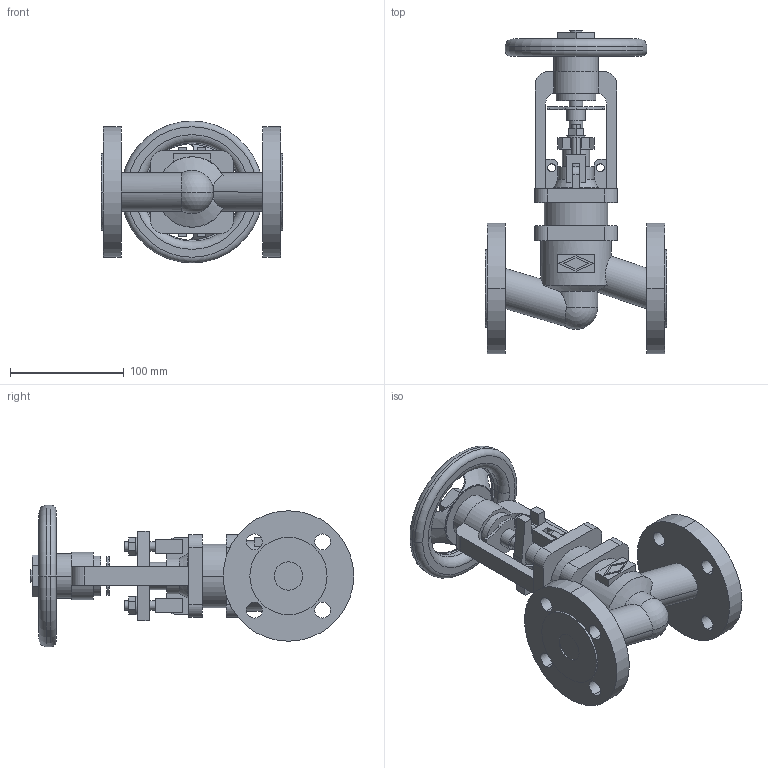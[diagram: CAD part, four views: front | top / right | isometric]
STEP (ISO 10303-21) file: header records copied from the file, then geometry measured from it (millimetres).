
FILE_DESCRIPTION(('OneSpaceDesigner STEP Export'),'2;1');
FILE_NAME('c000003737.stp','2009-06-15T13:03:39',(''),(''),'OneSpace Designer STEP processor for AP214 (Solid Model)','OneSpace Modeling 15.50B 03-Nov-2007 (C) CoCreate Software GmbH','');
FILE_SCHEMA(('AUTOMOTIVE_DESIGN { 1 0 10303 214 1 1 1 1 }'));
Length unit declared in the file: millimetre
Products named in the file (1): 1
Bounding box: 160 x 285 x 125 mm (x, y, z)
Volume: 997900.8 mm3; surface area: 166937.4 mm2
Topology: 1 solids, 1 shells, 283 faces, 756 edges, 497 vertices
Faces by surface type: plane 140, cylinder 115, torus 14, cone 12, sphere 2
Entity records: 11142 total; most frequent: CARTESIAN_POINT 2124, ORIENTED_EDGE 1508, DIRECTION 1263, EDGE_CURVE 754, VERTEX_POINT 497, AXIS2_PLACEMENT_3D 423, VECTOR 417, LINE 417
